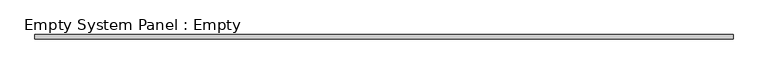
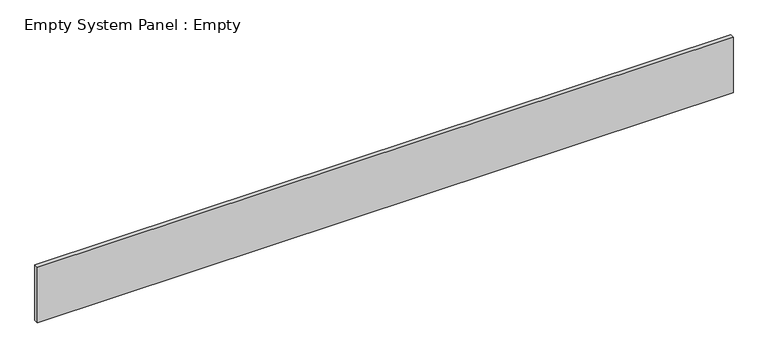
"""IFC4 building model written with IfcOpenShell, lengths in millimetres: plate geometry, Empty System Panel : Empty."""

from ifc_helpers import new_model, si_unit, frame, origin, place, context, project, spatial, polyline, outline, extrude, source, transform, mapped, element, save


def empty_system_panel_empty_5a5e46bd(model_context):
    return source(origin(), model_context, "Body", "SweptSolid", [
        extrude(outline(polyline([(0.0, -8147.5), (0.0, 8147.5), (992.3061629, 8147.5), (1375.3195673, 8147.5), (1375.3195673, -8147.5), (0.0, -8147.5)])), frame((0.0, -50.0, 0.0), z_axis=(0.0, 1.0, 0.0), x_axis=(0.0, 0.0, 1.0)), (0.0, 0.0, 1.0), 100.0),
    ])


if __name__ == "__main__":
    model = new_model("IFC4")
    model_context = context("Model", 3, world=origin())
    ifc_project = project(units=[si_unit("LENGTHUNIT", "METRE", prefix="MILLI")], contexts=[model_context])
    site = spatial("IfcSite", under=ifc_project)
    building = spatial("IfcBuilding", under=site)
    placement = place(None, origin())
    empty_system_panel_empty_shape = empty_system_panel_empty_5a5e46bd(model_context)
    element("IfcPlate", 1, ObjectType="Empty System Panel : Empty", at=placement, inside=building, context=model_context, shape_type="MappedRepresentation", body=[
        mapped(empty_system_panel_empty_shape, transform((0.0, 0.0, 0.0), x_axis=(1.0, 0.0, 0.0), y_axis=(0.0, 1.0, 0.0), z_axis=(0.0, 0.0, 1.0))),
    ])
    save(model, "model.ifc")
